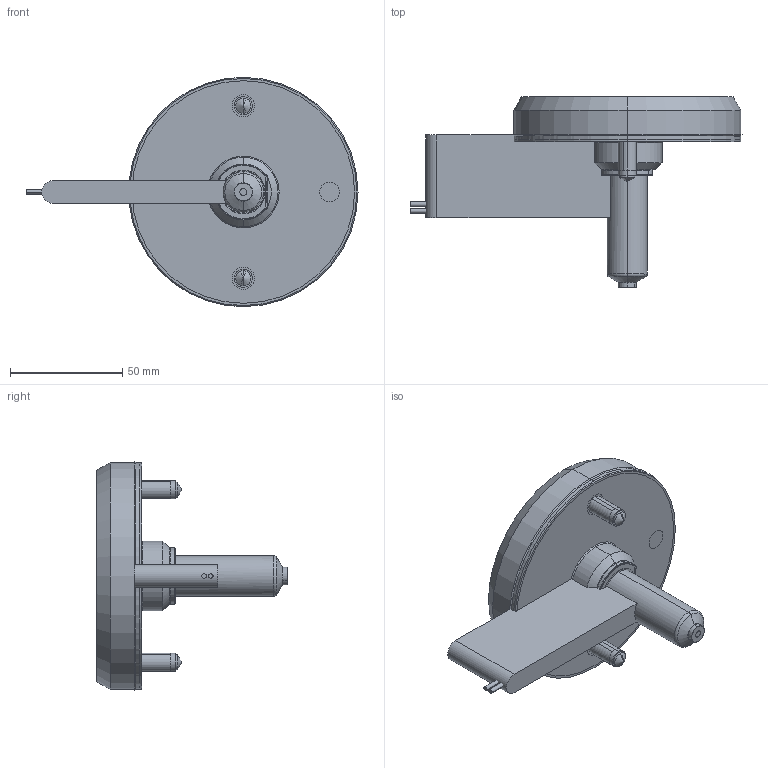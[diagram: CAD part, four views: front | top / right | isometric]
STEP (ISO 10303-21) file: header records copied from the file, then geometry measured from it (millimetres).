
FILE_DESCRIPTION (( 'STEP AP214' ), '1' );
FILE_NAME ('SOHSB4050-SOSRT0401.STEP', '2024-11-28T12:59:39', ( '' ), ( '' ), 'SwSTEP 2.0', 'SolidWorks 2022', '' );
FILE_SCHEMA (( 'AUTOMOTIVE_DESIGN' ));
Length unit declared in the file: millimetre
Products named in the file (9): EcoONE-HSB-04-Open Gate Cut-out Details_Sprue Gate or Full Body Gate; EcoONE-HSB04-04006(A)_SONHC04; EcoONE-HSB04-Open Gate Sprue Tip_SOSRT0401; SOHSB4050-SOSRT0401; socket head cap screw_iso_ISO 4762 M8 x 25 - 25N; EcoONE-HSB04-04005(A)_SOTC10200-J; EcoONE-HSB04-04003(A)_SOHSBNB4050; EcoONE-HSB04-04004(A)_SONH10047; EcoONE-HSB04-00002(A)_SOHSBLR04
Assembly tree (10 placements, depth 2):
  SOHSB4050-SOSRT0401
    EcoONE-HSB04-04003(A)_SOHSBNB4050
    EcoONE-HSB04-04004(A)_SONH10047
    EcoONE-HSB04-04005(A)_SOTC10200-J
    EcoONE-HSB04-04006(A)_SONHC04  x2
    EcoONE-HSB04-00002(A)_SOHSBLR04
    socket head cap screw_iso_ISO 4762 M8 x 25 - 25N  x2
    EcoONE-HSB04-Open Gate Sprue Tip_SOSRT0401
    EcoONE-HSB-04-Open Gate Cut-out Details_Sprue Gate or Full Body Gate
Bounding box: 148.2 x 85 x 102.4 mm (x, y, z)
Volume: 219268 mm3; surface area: 66403.5 mm2
Topology: 10 solids, 10 shells, 506 faces, 1269 edges, 794 vertices
Faces by surface type: cylinder 153, plane 135, bspline 97, cone 83, torus 30, sphere 8
Entity records: 25531 total; most frequent: CARTESIAN_POINT 14319, ORIENTED_EDGE 2314, DIRECTION 1962, EDGE_CURVE 1157, AXIS2_PLACEMENT_3D 791, VERTEX_POINT 731, EDGE_LOOP 502, ADVANCED_FACE 463
